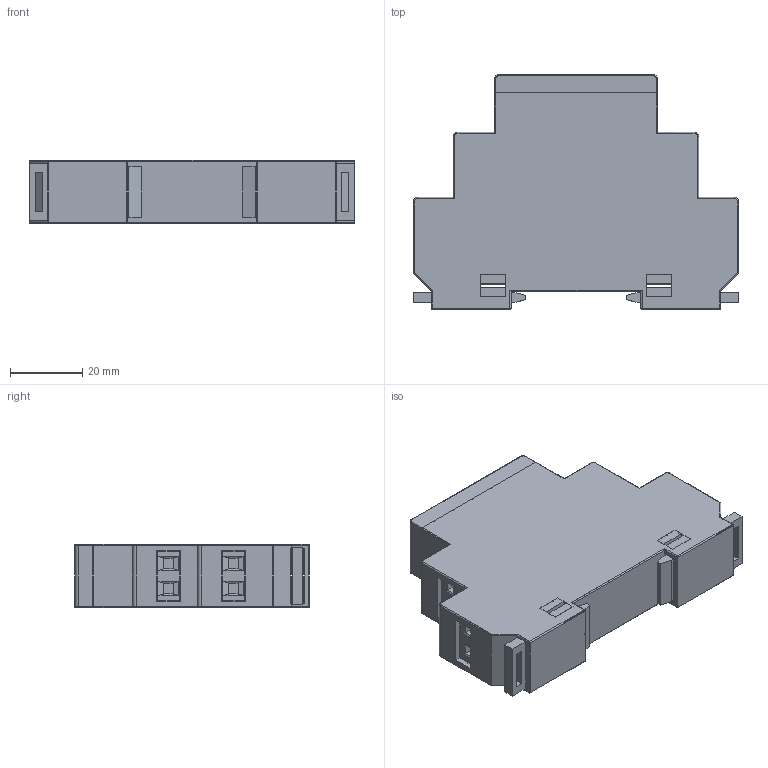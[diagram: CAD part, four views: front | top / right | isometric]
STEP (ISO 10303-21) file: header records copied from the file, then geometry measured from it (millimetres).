
FILE_DESCRIPTION (( 'STEP AP214' ), '1' );
FILE_NAME ('MMR-HL-001-A230.step', '2014-09-04T08:11:53', ( '' ), ( '' ), 'SwSTEP 2.0', 'SolidWorks 2011', '' );
FILE_SCHEMA (( 'AUTOMOTIVE_DESIGN' ));
Length unit declared in the file: millimetre
Products named in the file (1): MMR-HL-001-A230
Bounding box: 90 x 65 x 17.6 mm (x, y, z)
Volume: 17078 mm3; surface area: 44263.6 mm2
Topology: 8 solids, 8 shells, 862 faces, 2336 edges, 1488 vertices
Faces by surface type: plane 704, cylinder 114, torus 36, bspline 8
Entity records: 36711 total; most frequent: CARTESIAN_POINT 5291, ORIENTED_EDGE 4656, DIRECTION 4346, EDGE_CURVE 2328, VECTOR 1884, LINE 1884, VERTEX_POINT 1488, AXIS2_PLACEMENT_3D 1231
